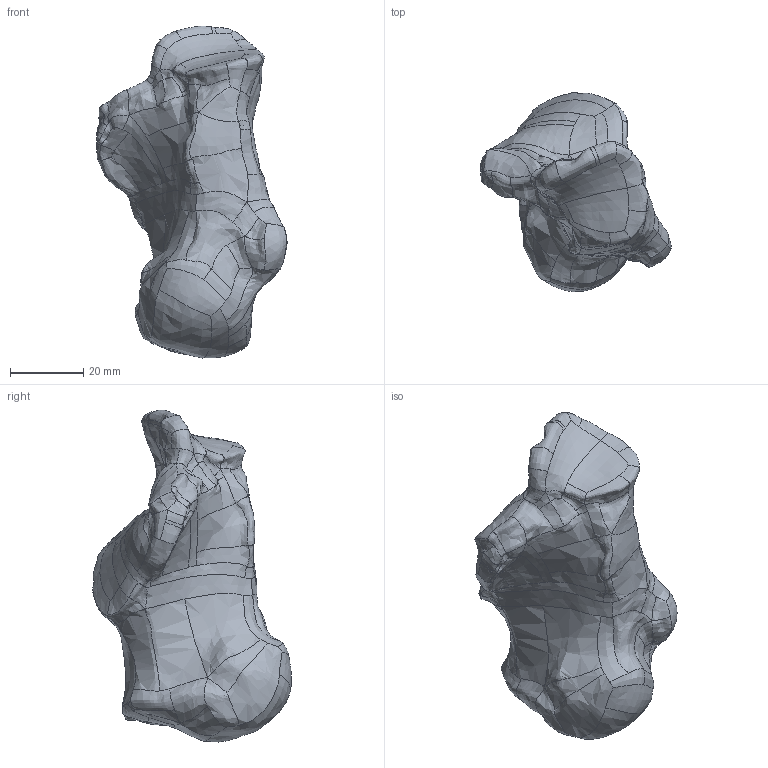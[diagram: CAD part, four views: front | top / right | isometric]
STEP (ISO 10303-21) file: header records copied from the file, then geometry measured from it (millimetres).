
FILE_DESCRIPTION (( 'STEP AP203' ), '1' );
FILE_NAME ('1123.STEP', '2025-06-04T19:00:25', ( '' ), ( '' ), 'SwSTEP 2.0', 'SolidWorks 2024', '' );
FILE_SCHEMA (( 'CONFIG_CONTROL_DESIGN' ));
Length unit declared in the file: millimetre
Products named in the file (1): 1123
Bounding box: 52.01 x 54.35 x 90.59 mm (x, y, z)
Volume: 72630.9 mm3; surface area: 11913.8 mm2
Topology: 1 solids, 1 shells, 393 faces, 1026 edges, 645 vertices
Faces by surface type: bspline 393
Entity records: 45876 total; most frequent: CARTESIAN_POINT 39451, ORIENTED_EDGE 2052, B_SPLINE_CURVE_WITH_KNOTS 1026, EDGE_CURVE 1026, VERTEX_POINT 645, EDGE_LOOP 403, FACE_OUTER_BOUND 393, B_SPLINE_SURFACE_WITH_KNOTS 393
